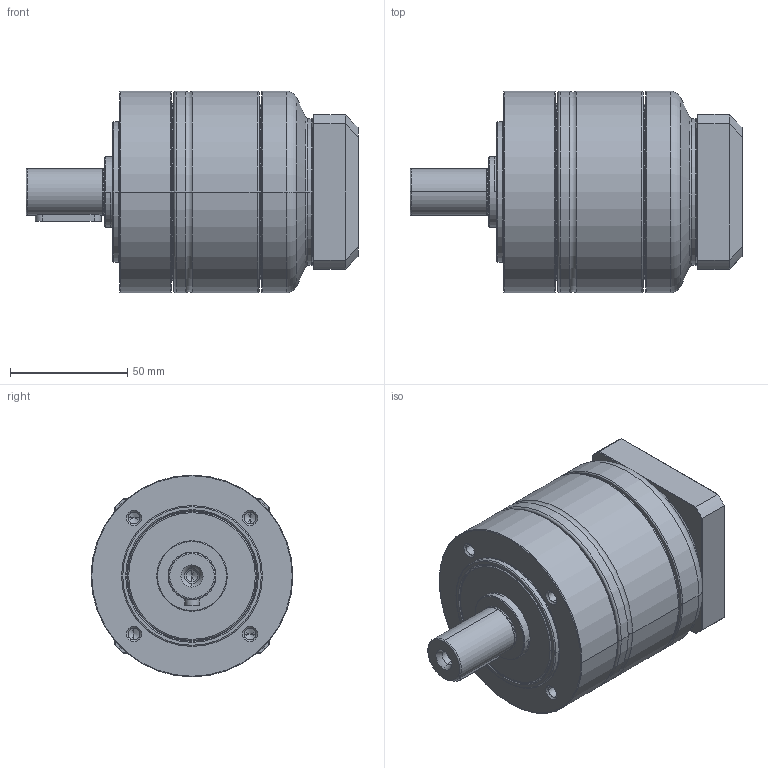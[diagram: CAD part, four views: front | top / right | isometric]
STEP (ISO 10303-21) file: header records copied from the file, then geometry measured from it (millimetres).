
FILE_DESCRIPTION((''),'2;1');
FILE_NAME('PG2-080_1ST_14-P0411300101_ASM','2016-04-11T',('d01943'),(''),'PRO/ENGINEER BY PARAMETRIC TECHNOLOGY CORPORATION, 2008410','PRO/ENGINEER BY PARAMETRIC TECHNOLOGY CORPORATION, 2008410','');
FILE_SCHEMA(('CONFIG_CONTROL_DESIGN'));
Length unit declared in the file: millimetre
Products named in the file (9): P1325310001; P0250300001; P1324300001; P0350301103; P0941300001; P0503300005; P0411300101; P1702300001; PG2-080_1ST_14-P0411300101_ASM
Assembly tree (8 placements, depth 2):
  PG2-080_1ST_14-P0411300101_ASM
    P1325310001
    P0250300001
    P1324300001
    P0350301103
    P0941300001
    P0503300005
    P0411300101
    P1702300001
Bounding box: 141.5 x 86 x 86 mm (x, y, z)
Volume: 449265.2 mm3; surface area: 107351.2 mm2
Topology: 8 solids, 9 shells, 468 faces, 1034 edges, 595 vertices
Faces by surface type: cone 142, cylinder 137, torus 94, plane 79, bspline 16
Entity records: 17329 total; most frequent: CARTESIAN_POINT 6784, DIRECTION 2399, ORIENTED_EDGE 2000, AXIS2_PLACEMENT_3D 1027, EDGE_CURVE 1000, VERTEX_POINT 595, CIRCLE 558, EDGE_LOOP 531
